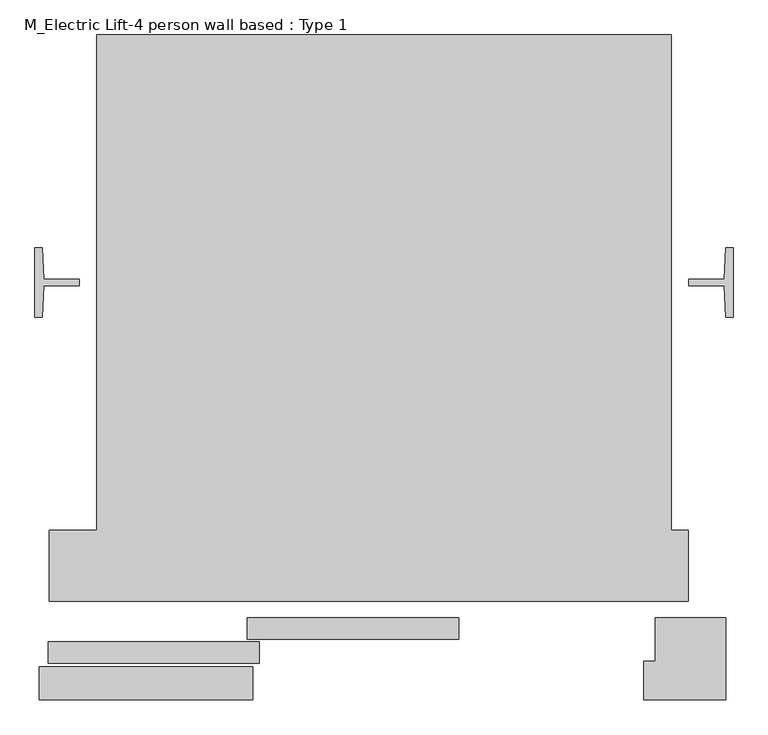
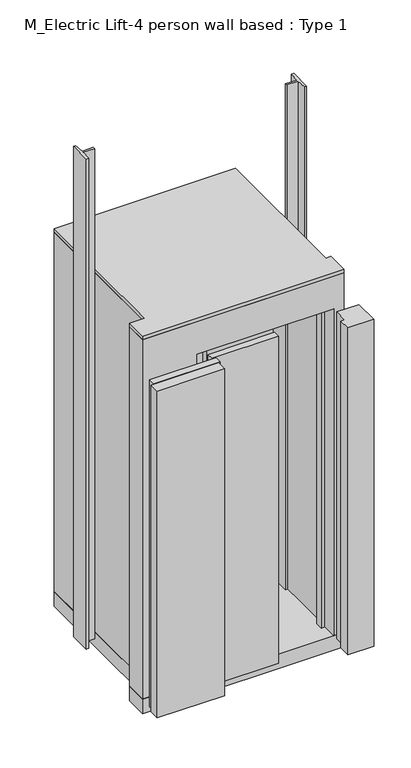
"""IFC4 building model written with IfcOpenShell, lengths in millimetres: proxy geometry, M_Electric Lift-4 person wall based : Type 1."""

import ifcopenshell
import ifcopenshell.guid

model = None  # the IFC model being written
_history = None  # IfcOwnerHistory: only IFC2X3 demands one
_inside = {}  # id of a spatial element -> (the spatial element, [elements in it])
_under = {}  # id of a project, library or spatial element -> (it, [spatial elements below it])
_declared = {}  # id of a project -> (the project, [libraries it declares])
_typed = {}  # id of a type object -> (the type object, [elements of that type])
_made_of = {}  # id of a material, layer set ... -> (it, [elements and type objects made of it])


def new_model(schema):
    """Start an empty IFC model of exactly this schema.

    Asked for "IFC4X3", IfcOpenShell would pick the latest addendum, in which some entities
    have other attributes; the version numbers below select the first issue.
    IFC2X3 requires an IfcOwnerHistory on every rooted entity: one is made here for all.
    """
    global model, _history
    if schema == "IFC4X3":
        model = ifcopenshell.file(schema_version=(4, 3, 0, 0))
    else:
        model = ifcopenshell.file(schema=schema)
    _inside.clear()
    _under.clear()
    _declared.clear()
    _typed.clear()
    _made_of.clear()
    _history = None
    if model.schema == "IFC2X3":
        org = make("IfcOrganization", Name="unknown")
        user = make(
            "IfcPersonAndOrganization",
            ThePerson=make("IfcPerson", FamilyName="unknown"),
            TheOrganization=org,
        )
        app = make(
            "IfcApplication",
            ApplicationDeveloper=org,
            Version="unknown",
            ApplicationFullName="unknown",
            ApplicationIdentifier="unknown",
        )
        _history = make(
            "IfcOwnerHistory",
            OwningUser=user,
            OwningApplication=app,
            ChangeAction="ADDED",
            CreationDate=0,
        )
    return model


def make(cls, **values):
    """One entity of the class cls with the attributes given. An attribute that is None is left unset."""
    return model.create_entity(
        cls, **{name: value for name, value in values.items() if value is not None}
    )


def rooted(cls, **values):
    """An entity with a GlobalId (a new one), such as an element, a storey or a relation."""
    return make(cls, GlobalId=ifcopenshell.guid.new(), OwnerHistory=_history, **values)


def si_unit(unit_type, name, prefix=None):
    """IfcSIUnit, for example si_unit("LENGTHUNIT", "METRE", prefix="MILLI")."""
    return make("IfcSIUnit", UnitType=unit_type, Prefix=prefix, Name=name)


def assignment(units):
    """IfcUnitAssignment: the units of a project."""
    return None if units is None else make("IfcUnitAssignment", Units=units)


def point(xyz):
    """IfcCartesianPoint."""
    return None if xyz is None else make("IfcCartesianPoint", Coordinates=xyz)


def direction(xyz):
    """IfcDirection."""
    return None if xyz is None else make("IfcDirection", DirectionRatios=xyz)


def frame(location, z_axis=None, x_axis=None):
    """IfcAxis2Placement3D, a coordinate frame: its origin and axes. An axis left out is left unset."""
    return make(
        "IfcAxis2Placement3D",
        Location=point(location),
        Axis=direction(z_axis),
        RefDirection=direction(x_axis),
    )


def origin():
    """The frame at (0, 0, 0) with its axes left unset."""
    return frame((0.0, 0.0, 0.0))


def origin_with_axes():
    """The frame at (0, 0, 0) with the z axis (0, 0, 1) and the x axis (1, 0, 0) written out."""
    return frame((0.0, 0.0, 0.0), z_axis=(0.0, 0.0, 1.0), x_axis=(1.0, 0.0, 0.0))


def place(relative_to, where):
    """IfcLocalPlacement: puts the frame where relative to a parent placement (None: the world)."""
    return make(
        "IfcLocalPlacement", PlacementRelTo=relative_to, RelativePlacement=where
    )


def context(
    kind, dimensions, precision=None, world=None, true_north=None, identifier=None
):
    """IfcGeometricRepresentationContext, for example the 3D "Model" context."""
    return make(
        "IfcGeometricRepresentationContext",
        ContextIdentifier=identifier,
        ContextType=kind,
        CoordinateSpaceDimension=dimensions,
        Precision=precision,
        WorldCoordinateSystem=world,
        TrueNorth=true_north,
    )


def project(units=None, contexts=None):
    """IfcProject with its units and contexts."""
    return rooted(
        "IfcProject",
        Name="project",
        RepresentationContexts=contexts,
        UnitsInContext=assignment(units),
    )


def spatial(cls, under=None, at=None, **own):
    """A site, building, storey or space (cls), placed at a placement, below another one or the project."""
    s = rooted(cls, ObjectPlacement=at, **own)
    if under is not None:
        _under.setdefault(under.id(), (under, []))[1].append(s)
    return s


def polyline(points):
    """IfcPolyline through the points."""
    return make("IfcPolyline", Points=[point(p) for p in points])


def outline(outer, holes=None, kind="AREA"):
    """IfcArbitraryClosedProfileDef: a profile drawn as a closed curve; with holes, ...WithVoids."""
    if holes is None:
        return make("IfcArbitraryClosedProfileDef", ProfileType=kind, OuterCurve=outer)
    return make(
        "IfcArbitraryProfileDefWithVoids",
        ProfileType=kind,
        OuterCurve=outer,
        InnerCurves=holes,
    )


def extrude(swept, where, along, depth):
    """IfcExtrudedAreaSolid: the profile swept, set in the frame where, extruded along a direction by depth."""
    return make(
        "IfcExtrudedAreaSolid",
        SweptArea=swept,
        Position=where,
        ExtrudedDirection=direction(along),
        Depth=depth,
    )


def faces_of(points, faces, orient=None, outer=None):
    """IfcFace entities. A face is a list of loops; a loop is a list of indices into points, from 0.

    orient and outer hold one flag for each loop. By default every Orientation is true, the
    first loop of a face is its IfcFaceOuterBound and the others are IfcFaceBound.
    """
    made = []
    for i, loops in enumerate(faces):
        bounds = []
        for j, loop in enumerate(loops):
            is_outer = j == 0 if outer is None else outer[i][j]
            bounds.append(
                make(
                    "IfcFaceOuterBound" if is_outer else "IfcFaceBound",
                    Bound=make("IfcPolyLoop", Polygon=[points[k] for k in loop]),
                    Orientation=True if orient is None else orient[i][j],
                )
            )
        made.append(make("IfcFace", Bounds=bounds))
    return made


def faceted_brep(points, faces, orient=None, outer=None, voids=None):
    """IfcFacetedBrep: a solid bounded by flat faces; with voids (closed shells), ...WithVoids."""
    shared = [point(p) for p in points]
    hull = make("IfcClosedShell", CfsFaces=faces_of(shared, faces, orient, outer))
    if voids is None:
        return make("IfcFacetedBrep", Outer=hull)
    return make(
        "IfcFacetedBrepWithVoids",
        Outer=hull,
        Voids=[
            make(cls, CfsFaces=faces_of(shared, fs, o, b)) for cls, fs, o, b in voids
        ],
    )


def shape(context_of_items, identifier, shape_type, items):
    """IfcShapeRepresentation: the items that make up one representation, for example the "Body"."""
    return make(
        "IfcShapeRepresentation",
        ContextOfItems=context_of_items,
        RepresentationIdentifier=identifier,
        RepresentationType=shape_type,
        Items=items,
    )


def source(mapping_origin, context_of_items, identifier, shape_type, items):
    """IfcRepresentationMap: a shape defined once, which mapped items show again and again."""
    return make(
        "IfcRepresentationMap",
        MappingOrigin=mapping_origin,
        MappedRepresentation=shape(context_of_items, identifier, shape_type, items),
    )


def transform(
    local_origin,
    x_axis=None,
    y_axis=None,
    z_axis=None,
    scale=None,
    scale2=None,
    scale3=None,
    uniform=True,
):
    """IfcCartesianTransformationOperator3D, or its non-uniform kind. x_axis, y_axis, z_axis: its Axis1, 2, 3."""
    if uniform:
        return make(
            "IfcCartesianTransformationOperator3D",
            Axis1=direction(x_axis),
            Axis2=direction(y_axis),
            LocalOrigin=point(local_origin),
            Scale=scale,
            Axis3=direction(z_axis),
        )
    return make(
        "IfcCartesianTransformationOperator3DnonUniform",
        Axis1=direction(x_axis),
        Axis2=direction(y_axis),
        LocalOrigin=point(local_origin),
        Scale=scale,
        Axis3=direction(z_axis),
        Scale2=scale2,
        Scale3=scale3,
    )


def mapped(mapping_source, mapping_target):
    """IfcMappedItem: shows the shape of a source again, moved by a transform."""
    return make(
        "IfcMappedItem", MappingSource=mapping_source, MappingTarget=mapping_target
    )


def made_of(thing, what):
    """Note that an element or type object is made of a material, layer set ...; save() writes the relation."""
    if what is not None:
        _made_of.setdefault(what.id(), (what, []))[1].append(thing)
    return thing


def element(
    cls,
    number,
    at=None,
    inside=None,
    cuts=None,
    type_object=None,
    material=None,
    context=None,
    identifier="Body",
    shape_type=None,
    held_by="IfcProductDefinitionShape",
    body=None,
    shapes=None,
    **own,
):
    """One element of the class cls, such as IfcWall. Its Tag is "e" and its number.

    at: its placement. inside: the storey or other place that contains it. cuts: it is an
    opening in that element (IfcRelVoidsElement). A single representation is given by context,
    identifier, shape_type and body (its items); several are given by shapes. held_by: the class
    of the entity that holds the representations. save() writes the other relations.
    """
    e = rooted(cls, Tag="e%d" % number, ObjectPlacement=at, **own)
    if body is not None:
        shapes = [shape(context, identifier, shape_type, body)]
    if shapes is not None:
        e.Representation = make(held_by, Representations=shapes)
    if inside is not None:
        _inside.setdefault(inside.id(), (inside, []))[1].append(e)
    if cuts is not None:
        rooted(
            "IfcRelVoidsElement", RelatingBuildingElement=cuts, RelatedOpeningElement=e
        )
    if type_object is not None:
        _typed.setdefault(type_object.id(), (type_object, []))[1].append(e)
    return made_of(e, material)


def aggregate(whole, parts):
    """IfcRelAggregates: a whole, such as a stair, and the parts it consists of."""
    return rooted("IfcRelAggregates", RelatingObject=whole, RelatedObjects=parts)


def save(model, path):
    """Write the relations noted so far, then the file.

    IfcRelAggregates (storeys below a building ...), IfcRelContainedInSpatialStructure (elements
    in a storey), IfcRelDefinesByType, IfcRelAssociatesMaterial and IfcRelDeclares: one each for
    every whole, place, type object, material and project.
    """
    for whole, parts in _under.values():
        aggregate(whole, parts)
    for where, things in _inside.values():
        rooted(
            "IfcRelContainedInSpatialStructure",
            RelatedElements=things,
            RelatingStructure=where,
        )
    for kind, things in _typed.values():
        rooted("IfcRelDefinesByType", RelatedObjects=things, RelatingType=kind)
    for what, things in _made_of.values():
        rooted("IfcRelAssociatesMaterial", RelatedObjects=things, RelatingMaterial=what)
    for by, libraries in _declared.values():
        rooted("IfcRelDeclares", RelatingContext=by, RelatedDefinitions=libraries)
    model.write(path)


def m_electric_lift_4_person_wall_based_type_1_27931067(model_context):
    return source(origin(), model_context, "Body", "SolidModel", [
        extrude(outline(polyline([(-400.0, 1140.0000001), (650.0, 1140.0000001), (650.0, 235.0), (681.0, 235.0), (681.0, 105.0), (-486.5, 105.0), (-486.5, 235.0), (-400.0, 235.0), (-400.0, 1140.0000001)])), frame((0.0, 0.0, 2200.0), z_axis=(0.0, 0.0, 1.0), x_axis=(1.0, 0.0, 0.0)), (0.0, 0.0, 1.0), 22.0),
        extrude(outline(polyline([(-448.6220553, 190.9893804), (-62.6220553, 190.9893804), (-62.6220553, 149.3893804), (-448.6220553, 149.3893804), (-448.6220553, 190.9893804)])), origin_with_axes(), (0.0, 0.0, 1.0), 2000.0),
        extrude(outline(polyline([(-114.8301, 144.0), (271.1699, 144.0), (271.1699, 108.9587126), (-114.8301, 108.9587126), (-114.8301, 144.0)])), origin_with_axes(), (0.0, 0.0, 1.0), 2000.0),
        extrude(outline(polyline([(-488.6220553, -8.3893803), (-488.6220553, 30.6106197), (-102.6220553, 30.6106197), (-102.6220553, -8.3893803), (-488.6220553, -8.3893803)])), origin_with_axes(), (0.0, 0.0, 1.0), 2000.0),
        extrude(outline(polyline([(-124.8301, 75.0), (261.1699, 75.0), (261.1699, 36.0), (-124.8301, 36.0), (-124.8301, 75.0)])), origin_with_axes(), (0.0, 0.0, 1.0), 2000.0),
        extrude(outline(polyline([(-400.0, 1140.0000001), (650.0, 1140.0000001), (650.0, 235.0), (681.0, 235.0), (681.0, 105.0), (-486.5, 105.0), (-486.5, 235.0), (-400.0, 235.0), (-400.0, 1140.0000001)])), frame((0.0, 0.0, -90.0), z_axis=(0.0, 0.0, 1.0), x_axis=(1.0, 0.0, 0.0)), (0.0, 0.0, 1.0), 90.0),
        faceted_brep([(-400.0, 1140.0000001, 2200.0), (-400.0, 235.0, 2200.0), (-486.5, 235.0, 2200.0), (-486.5, 105.0, 2200.0), (681.0, 105.0, 2200.0), (681.0, 235.0, 2200.0), (650.0, 235.0, 2200.0), (650.0, 1140.0000001, 2200.0), (-375.0, 1115.0000001, 2200.0), (625.0, 1115.0000001, 2200.0), (625.0, 802.5016433, 2200.0), (610.2454439, 802.5016433, 2200.0), (610.2454439, 572.5016433, 2200.0), (625.0, 572.5016433, 2200.0), (625.0, 235.0, 2200.0), (600.0, 235.0, 2200.0), (600.0, 192.6835257, 2200.0), (621.1699, 192.6835257, 2200.0), (621.1699, 108.9587126, 2200.0), (-458.1228936, 108.9587126, 2200.0), (-458.1228936, 197.0, 2200.0), (-110.3, 197.0, 2200.0), (-110.3, 235.0, 2200.0), (-375.0, 235.0, 2200.0), (-400.0, 1140.0000001, 0.0), (650.0, 1140.0000001, 0.0), (650.0, 235.0, 0.0), (681.0, 235.0, 0.0), (681.0, 105.0, 0.0), (621.1699, 105.0, 0.0), (621.1699, 192.6835257, 0.0), (600.0, 192.6835257, 0.0), (600.0, 235.0, 0.0), (625.0, 235.0, 0.0), (625.0, 572.5016433, 0.0), (610.2454439, 572.5016433, 0.0), (610.2454439, 802.5016433, 0.0), (625.0, 802.5016433, 0.0), (625.0, 1115.0000001, 0.0), (-375.0, 1115.0000001, 0.0), (-375.0, 235.0, 0.0), (-110.3, 235.0, 0.0), (-110.3, 197.0, 0.0), (-458.1228936, 197.0, 0.0), (-458.1228936, 108.9587126, 0.0), (-173.4437103, 108.9587126, 0.0), (-173.4437103, 105.0, 0.0), (-486.5, 105.0, 0.0), (-486.5, 235.0, 0.0), (-400.0, 235.0, 0.0), (-173.4437103, 105.0, 2000.0), (621.1699, 105.0, 2000.0), (621.1699, 108.9587126, 2000.0), (-173.4437103, 108.9587126, 2000.0), (600.0, 192.6835257, 2000.0)], [[[0, 1, 2, 3, 4, 5, 6, 7], [8, 9, 10, 11, 12, 13, 14, 15, 16, 17, 18, 19, 20, 21, 22, 23]], [[24, 25, 26, 27, 28, 29, 30, 31, 32, 33, 34, 35, 36, 37, 38, 39, 40, 41, 42, 43, 44, 45, 46, 47, 48, 49]], [[7, 25, 24, 0]], [[6, 26, 25, 7]], [[5, 27, 26, 6]], [[4, 28, 27, 5]], [[3, 47, 46, 50, 51, 29, 28, 4]], [[2, 48, 47, 3]], [[1, 49, 48, 2]], [[0, 24, 49, 1]], [[23, 40, 39, 8]], [[22, 41, 40, 23]], [[21, 42, 41, 22]], [[20, 43, 42, 21]], [[19, 44, 43, 20]], [[18, 52, 53, 45, 44, 19]], [[17, 30, 29, 51, 52, 18]], [[16, 54, 31, 30, 17]], [[15, 32, 31, 54, 16]], [[14, 33, 32, 15]], [[13, 34, 33, 14]], [[12, 35, 34, 13]], [[11, 36, 35, 12]], [[10, 37, 36, 11]], [[9, 38, 37, 10]], [[8, 39, 38, 9]], [[51, 50, 53, 52]], [[50, 46, 45, 53]]]),
        extrude(outline(polyline([(750.026988, 751.0012199), (763.026988, 751.0012199), (763.026988, 624.0012199), (750.026988, 624.0012199), (747.1132057, 681.3056039), (682.0269884, 681.3056039), (682.0269884, 693.80122), (747.026988, 693.80122), (750.026988, 751.0012199)])), origin_with_axes(), (0.0, 0.0, 1.0), 3000.0),
        extrude(outline(polyline([(-497.026988, 693.80122), (-432.0269884, 693.80122), (-432.0269884, 681.3056039), (-497.1132057, 681.3056039), (-500.026988, 624.0012199), (-513.026988, 624.0012199), (-513.026988, 751.0012199), (-500.026988, 751.0012199), (-497.026988, 693.80122)])), origin_with_axes(), (0.0, 0.0, 1.0), 3000.0),
        extrude(outline(polyline([(-114.9791786, -75.0), (-505.0067971, -75.0), (-505.0067971, -14.4785696), (-114.9791786, -14.4785696), (-114.9791786, -75.0)])), origin_with_axes(), (0.0, 0.0, 1.0), 2000.0),
        extrude(outline(polyline([(600.0, -5.0), (621.1699, -5.0), (621.1699, 75.0), (750.0, 75.0), (750.0, -75.0), (600.0, -75.0), (600.0, -5.0)])), origin_with_axes(), (0.0, 0.0, 1.0), 2000.0),
    ])


if __name__ == "__main__":
    model = new_model("IFC4")
    model_context = context("Model", 3, world=origin())
    ifc_project = project(units=[si_unit("LENGTHUNIT", "METRE", prefix="MILLI")], contexts=[model_context])
    site = spatial("IfcSite", under=ifc_project)
    building = spatial("IfcBuilding", under=site)
    placement = place(None, origin())
    m_electric_lift_4_person_wall_based_type_1_shape = m_electric_lift_4_person_wall_based_type_1_27931067(model_context)
    element("IfcBuildingElementProxy", 1, Name="M_Electric Lift-4 person wall based : Type 1", ObjectType="M_Electric Lift-4 person wall based : Type 1", at=placement, inside=building, context=model_context, shape_type="MappedRepresentation", body=[
        mapped(m_electric_lift_4_person_wall_based_type_1_shape, transform((0.0, 0.0, 0.0), x_axis=(1.0, 0.0, 0.0), y_axis=(0.0, 1.0, 0.0), z_axis=(0.0, 0.0, 1.0))),
    ])
    save(model, "model.ifc")
